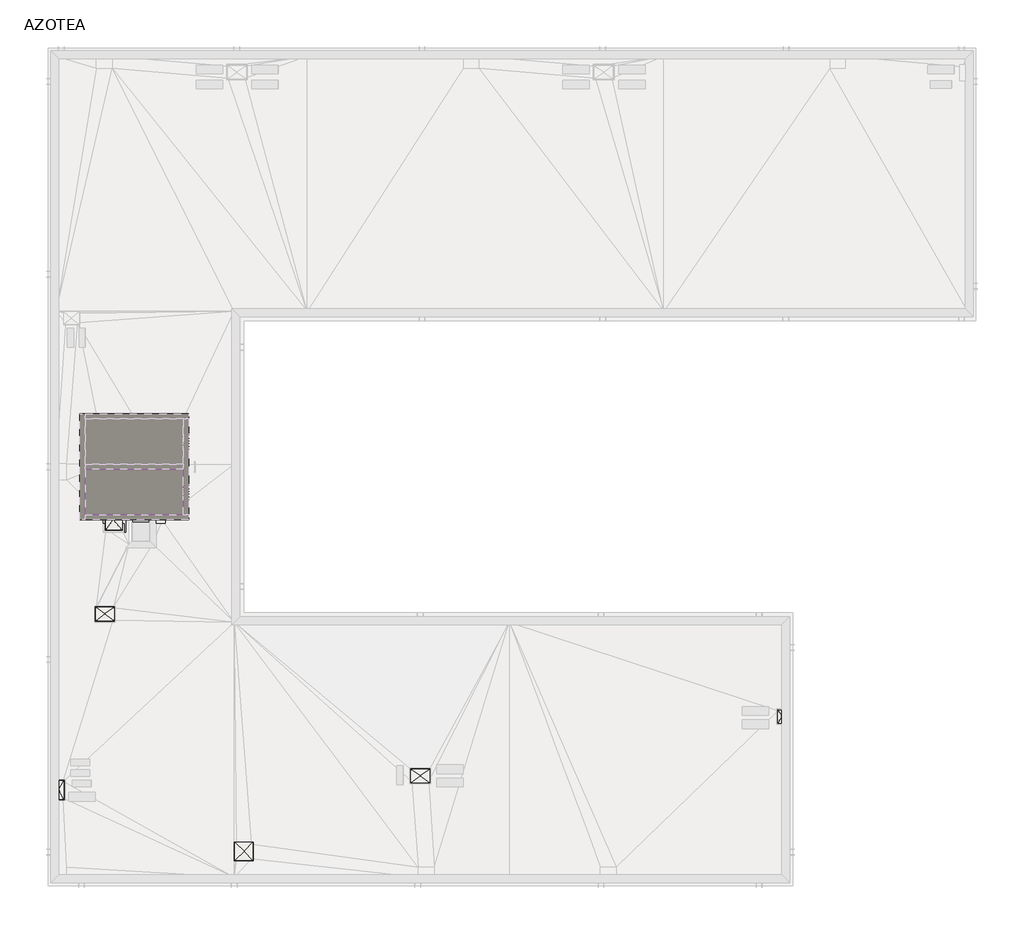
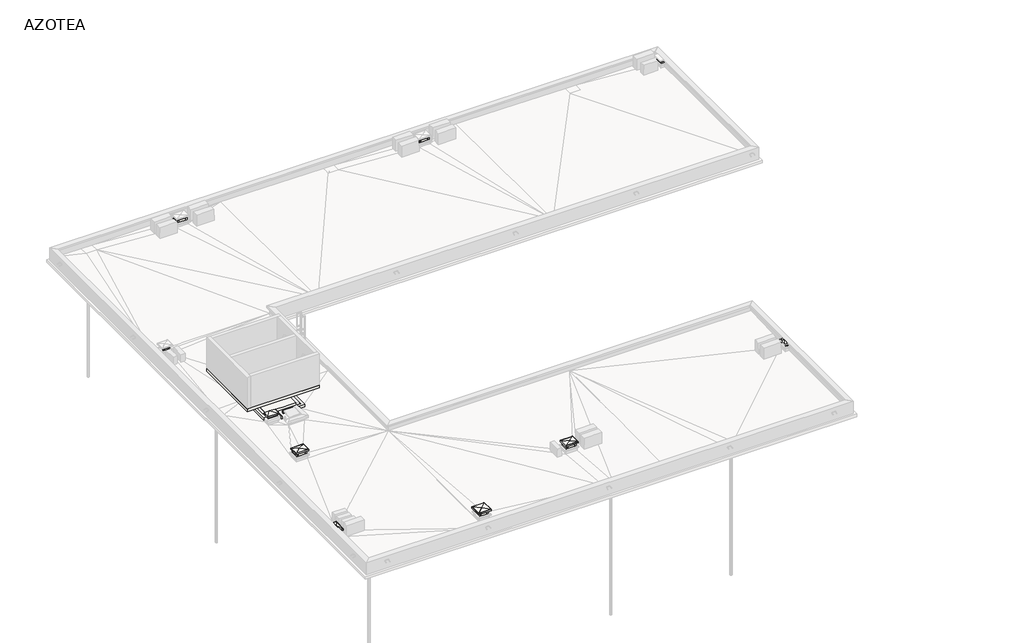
# One storey, part 1 of 6: 36 walls, 10 slabs, 5 proxies.
"""IFC4 building model written with IfcOpenShell, lengths in millimetres."""

from ifc_helpers import new_model, si_unit, frame, origin, place, context, project, spatial, polyline, outline, extrude, faceted_brep, element, save

model = new_model("IFC4")

# Units and contexts
model_context = context("Model", 3, world=origin())
ifc_project = project(units=[si_unit("LENGTHUNIT", "METRE", prefix="MILLI")], contexts=[model_context])

# Site, building, storey
site = spatial("IfcSite", under=ifc_project)
building = spatial("IfcBuilding", under=site)
storey = spatial("IfcBuildingStorey", under=building, Name="AZOTEA", Elevation=6570.0)

# Proxies
placement = place(None, origin())
element("IfcBuildingElementProxy", 1, Name="Goterón", ObjectType="Goterón", at=placement, inside=storey, context=model_context, shape_type="Brep", body=[
    faceted_brep([(5228.7173694, 13970.2304035, 7340.0), (5238.7173694, 13970.2304035, 7340.0), (5238.7173694, 13970.2304035, 7270.0), (5238.7173694, 13970.2304035, 7260.0), (5228.7173694, 13970.2304035, 7260.0), (5228.7173694, 13580.2304035, 7340.0), (5238.7173694, 13590.2304035, 7340.0), (5238.7173694, 13590.2304035, 7270.0), (5238.7173694, 13590.2304035, 7260.0), (5228.7173694, 13580.2304035, 7260.0), (5878.7173694, 13580.2304035, 7340.0), (5868.7173694, 13590.2304035, 7340.0), (5868.7173694, 13590.2304035, 7270.0), (5868.7173694, 13590.2304035, 7260.0), (5878.7173694, 13580.2304035, 7260.0), (5868.7173694, 13970.2304035, 7340.0), (5878.7173694, 13970.2304035, 7340.0), (5878.7173694, 13970.2304035, 7260.0), (5868.7173694, 13970.2304035, 7260.0), (5868.7173694, 13970.2304035, 7270.0)], [[[0, 1, 2, 3, 4]], [[1, 0, 5, 6]], [[1, 6, 7, 8, 3, 2]], [[4, 3, 8, 9]], [[0, 4, 9, 5]], [[6, 5, 10, 11]], [[6, 11, 12, 13, 8, 7]], [[9, 8, 13, 14]], [[5, 9, 14, 10]], [[15, 16, 17, 18, 19]], [[11, 10, 16, 15]], [[11, 15, 19, 18, 13, 12]], [[14, 13, 18, 17]], [[10, 14, 17, 16]]]),
])
element("IfcBuildingElementProxy", 2, Name="Goterón", ObjectType="Goterón", at=placement, inside=storey, context=model_context, shape_type="Brep", body=[
    faceted_brep([(5568.9089372, 10690.2304035, 7340.0), (5578.9089372, 10700.2304035, 7340.0), (4858.9089372, 10700.2304035, 7340.0), (4868.9089372, 10690.2304035, 7340.0), (4868.9089372, 10690.2304035, 7270.0), (4868.9089372, 10690.2304035, 7260.0), (5568.9089372, 10690.2304035, 7260.0), (5568.9089372, 10690.2304035, 7270.0), (5578.9089372, 10700.2304035, 7260.0), (4858.9089372, 10700.2304035, 7260.0), (4858.9089372, 10160.2304035, 7340.0), (4868.9089372, 10170.2304035, 7340.0), (4868.9089372, 10170.2304035, 7270.0), (4868.9089372, 10170.2304035, 7260.0), (4858.9089372, 10160.2304035, 7260.0), (5578.9089372, 10160.2304035, 7340.0), (5568.9089372, 10170.2304035, 7340.0), (5568.9089372, 10170.2304035, 7270.0), (5568.9089372, 10170.2304035, 7260.0), (5578.9089372, 10160.2304035, 7260.0)], [[[0, 1, 2, 3]], [[0, 3, 4, 5, 6, 7]], [[8, 6, 5, 9]], [[1, 8, 9, 2]], [[3, 2, 10, 11]], [[3, 11, 12, 13, 5, 4]], [[9, 5, 13, 14]], [[2, 9, 14, 10]], [[11, 10, 15, 16]], [[11, 16, 17, 18, 13, 12]], [[14, 13, 18, 19]], [[10, 14, 19, 15]], [[1, 0, 16, 15]], [[16, 0, 7, 6, 18, 17]], [[6, 8, 19, 18]], [[8, 1, 15, 19]]]),
])
element("IfcBuildingElementProxy", 3, Name="Goterón", ObjectType="Goterón", at=placement, inside=storey, context=model_context, shape_type="Brep", body=[
    faceted_brep([(3488.7173693, 3451.2570664, 7280.0), (3488.7173693, 3461.2570664, 7280.0), (3488.7173693, 3461.2570664, 7210.0), (3488.7173693, 3461.2570664, 7200.0), (3488.7173693, 3451.2570664, 7200.0), (3688.5673693, 3451.2570664, 7280.0), (3678.5673693, 3461.2570664, 7280.0), (3678.5673693, 3461.2570664, 7210.0), (3678.5673693, 3461.2570664, 7200.0), (3688.5673693, 3451.2570664, 7200.0), (3688.5673693, 4171.2570664, 7280.0), (3678.5673693, 4161.2570664, 7280.0), (3678.5673693, 4161.2570664, 7210.0), (3678.5673693, 4161.2570664, 7200.0), (3688.5673693, 4171.2570664, 7200.0), (3488.7173693, 4161.2570664, 7280.0), (3488.7173693, 4171.2570664, 7280.0), (3488.7173693, 4171.2570664, 7200.0), (3488.7173693, 4161.2570664, 7200.0), (3488.7173693, 4161.2570664, 7210.0)], [[[0, 1, 2, 3, 4]], [[1, 0, 5, 6]], [[1, 6, 7, 8, 3, 2]], [[4, 3, 8, 9]], [[0, 4, 9, 5]], [[6, 5, 10, 11]], [[6, 11, 12, 13, 8, 7]], [[9, 8, 13, 14]], [[5, 9, 14, 10]], [[15, 16, 17, 18, 19]], [[11, 10, 16, 15]], [[11, 15, 19, 18, 13, 12]], [[14, 13, 18, 17]], [[10, 14, 17, 16]]]),
])
element("IfcBuildingElementProxy", 4, Name="Goterón", ObjectType="Goterón", at=placement, inside=storey, context=model_context, shape_type="Brep", body=[
    faceted_brep([(17437.1766736, 4590.2304035, 7340.0), (17447.1766736, 4600.2304035, 7340.0), (16727.1766736, 4600.2304035, 7340.0), (16737.1766736, 4590.2304035, 7340.0), (16737.1766736, 4590.2304035, 7270.0), (16737.1766736, 4590.2304035, 7260.0), (17437.1766736, 4590.2304035, 7260.0), (17437.1766736, 4590.2304035, 7270.0), (17447.1766736, 4600.2304035, 7260.0), (16727.1766736, 4600.2304035, 7260.0), (16727.1766736, 4080.2304035, 7340.0), (16737.1766736, 4090.2304035, 7340.0), (16737.1766736, 4090.2304035, 7270.0), (16737.1766736, 4090.2304035, 7260.0), (16727.1766736, 4080.2304035, 7260.0), (17447.1766736, 4080.2304035, 7340.0), (17437.1766736, 4090.2304035, 7340.0), (17437.1766736, 4090.2304035, 7270.0), (17437.1766736, 4090.2304035, 7260.0), (17447.1766736, 4080.2304035, 7260.0)], [[[0, 1, 2, 3]], [[0, 3, 4, 5, 6, 7]], [[8, 6, 5, 9]], [[1, 8, 9, 2]], [[3, 2, 10, 11]], [[3, 11, 12, 13, 5, 4]], [[9, 5, 13, 14]], [[2, 9, 14, 10]], [[11, 10, 15, 16]], [[11, 16, 17, 18, 13, 12]], [[14, 13, 18, 19]], [[10, 14, 19, 15]], [[1, 0, 16, 15]], [[16, 0, 7, 6, 18, 17]], [[6, 8, 19, 18]], [[8, 1, 15, 19]]]),
])
element("IfcBuildingElementProxy", 5, Name="Goterón", ObjectType="Goterón", at=placement, inside=storey, context=model_context, shape_type="Brep", body=[
    faceted_brep([(10791.2173694, 1835.2304035, 7340.0), (10801.2173694, 1845.2304035, 7340.0), (10088.7173694, 1845.2304035, 7340.0), (10098.7173694, 1835.2304035, 7340.0), (10098.7173694, 1835.2304035, 7270.0), (10098.7173694, 1835.2304035, 7260.0), (10791.2173694, 1835.2304035, 7260.0), (10791.2173694, 1835.2304035, 7270.0), (10801.2173694, 1845.2304035, 7260.0), (10088.7173694, 1845.2304035, 7260.0), (10088.7173694, 1155.2304035, 7340.0), (10098.7173694, 1165.2304035, 7340.0), (10098.7173694, 1165.2304035, 7270.0), (10098.7173694, 1165.2304035, 7260.0), (10088.7173694, 1155.2304035, 7260.0), (10801.2173694, 1155.2304035, 7340.0), (10791.2173694, 1165.2304035, 7340.0), (10791.2173694, 1165.2304035, 7270.0), (10791.2173694, 1165.2304035, 7260.0), (10801.2173694, 1155.2304035, 7260.0)], [[[0, 1, 2, 3]], [[0, 3, 4, 5, 6, 7]], [[8, 6, 5, 9]], [[1, 8, 9, 2]], [[3, 2, 10, 11]], [[3, 11, 12, 13, 5, 4]], [[9, 5, 13, 14]], [[2, 9, 14, 10]], [[11, 10, 15, 16]], [[11, 16, 17, 18, 13, 12]], [[14, 13, 18, 19]], [[10, 14, 19, 15]], [[1, 0, 16, 15]], [[16, 0, 7, 6, 18, 17]], [[6, 8, 19, 18]], [[8, 1, 15, 19]]]),
])

# Slabs
element("IfcSlab", 6, ObjectType="Aleta H.A. 15cm", at=placement, inside=storey, context=model_context, shape_type="Brep", body=[
    faceted_brep([(7368.7173694, 13970.2304035, 7010.0), (7368.7173694, 16070.2304035, 7010.0), (5268.7173693, 16070.2304035, 7010.0), (5268.7173693, 13970.2304035, 7010.0), (5388.7173694, 13970.2304035, 7010.0), (5388.7173694, 13850.2304035, 7010.0), (5268.7173694, 13850.2304035, 7010.0), (5178.7173694, 13850.2304035, 7010.0), (5158.7173694, 13850.2304035, 7010.0), (5148.7173693, 13850.2304035, 7010.0), (5148.7173693, 16190.2304035, 7010.0), (7488.7173694, 16190.2304035, 7010.0), (7488.7173694, 13850.2304035, 7010.0), (7144.4126343, 13850.2304035, 7010.0), (7144.4126343, 13970.2304035, 7010.0), (7368.7173694, 13970.2304035, 7160.0), (7144.4126343, 13970.2304035, 7160.0), (7144.4126343, 13850.2304035, 7160.0), (7488.7173694, 13850.2304035, 7160.0), (7488.7173694, 16190.2304035, 7160.0), (5148.7173693, 16190.2304035, 7160.0), (5148.7173693, 13850.2304035, 7160.0), (5388.7173694, 13850.2304035, 7160.0), (5388.7173694, 13970.2304035, 7160.0), (5268.7173693, 13970.2304035, 7160.0), (5268.7173693, 14170.2304035, 7160.0), (5268.7173693, 15870.2304035, 7160.0), (5268.7173693, 16070.2304035, 7160.0), (7368.7173694, 16070.2304035, 7160.0), (7368.7173694, 15870.2304035, 7160.0), (7368.7173694, 14170.2304035, 7160.0)], [[[0, 1, 2, 3, 4, 5, 6, 7, 8, 9, 10, 11, 12, 13, 14]], [[15, 16, 17, 18, 19, 20, 21, 22, 23, 24, 25, 26, 27, 28, 29, 30]], [[1, 0, 15, 30, 29, 28]], [[2, 1, 28, 27]], [[3, 2, 27, 26, 25, 24]], [[4, 3, 24, 23]], [[10, 9, 21, 20]], [[11, 10, 20, 19]], [[12, 11, 19, 18]], [[13, 12, 18, 17]], [[14, 13, 17, 16]], [[0, 14, 16, 15]], [[5, 4, 23, 22]], [[9, 8, 7, 6, 5, 22, 21]]]),
    faceted_brep([(6274.4126343, 13850.2304035, 7010.0), (6274.4126343, 13970.2304035, 7010.0), (6874.4126343, 13970.2304035, 7010.0), (6874.4126343, 13850.2304035, 7010.0), (6274.4126343, 13850.2304035, 7160.0), (6874.4126343, 13850.2304035, 7160.0), (6874.4126343, 13970.2304035, 7160.0), (6274.4126343, 13970.2304035, 7160.0)], [[[0, 1, 2, 3]], [[4, 5, 6, 7]], [[1, 0, 4, 7]], [[2, 1, 7, 6]], [[3, 2, 6, 5]], [[0, 3, 5, 4]]]),
    faceted_brep([(6004.4126343, 13850.2304035, 7010.0), (6004.4126343, 13500.2304035, 7010.0), (5958.7173694, 13500.2304035, 7010.0), (5958.7173694, 13850.2304035, 7010.0), (5948.7173694, 13850.2304035, 7010.0), (5928.7173694, 13850.2304035, 7010.0), (5838.7173694, 13850.2304035, 7010.0), (5718.7173694, 13850.2304035, 7010.0), (5718.7173694, 13970.2304035, 7010.0), (5838.7173694, 13970.2304035, 7010.0), (6004.4126343, 13970.2304035, 7010.0), (6004.4126343, 13850.2304035, 7160.0), (6004.4126343, 13970.2304035, 7160.0), (5718.7173694, 13970.2304035, 7160.0), (5718.7173694, 13850.2304035, 7160.0), (5958.7173694, 13850.2304035, 7160.0), (5958.7173694, 13500.2304035, 7160.0), (6004.4126343, 13500.2304035, 7160.0)], [[[0, 1, 2, 3, 4, 5, 6, 7, 8, 9, 10]], [[11, 12, 13, 14, 15, 16, 17]], [[0, 10, 12, 11]], [[7, 6, 5, 4, 3, 15, 14]], [[8, 7, 14, 13]], [[10, 9, 8, 13, 12]], [[1, 0, 11, 17]], [[2, 1, 17, 16]], [[3, 2, 16, 15]]]),
])
element("IfcSlab", 7, ObjectType="CUBIERTA SALIDAS AZOTEA", at=placement, inside=storey, context=model_context, shape_type="Brep", body=[
    faceted_brep([(5868.7173694, 13970.2304035, 7270.0), (5868.7173694, 13590.2304035, 7270.0), (5238.7173694, 13590.2304035, 7270.0), (5238.7173694, 13970.2304035, 7270.0), (5868.7173694, 13970.2304035, 7340.0), (5868.7173694, 13590.2304035, 7340.0), (5238.7173694, 13590.2304035, 7340.0), (5238.7173694, 13970.2304035, 7340.0), (5543.0104365, 13970.2304035, 7370.0)], [[[0, 1, 2, 3]], [[1, 0, 4, 5]], [[2, 1, 5, 6]], [[3, 2, 6, 7]], [[0, 3, 7, 8, 4]], [[7, 6, 8]], [[6, 5, 8]], [[5, 4, 8]]]),
])
element("IfcSlab", 8, ObjectType="CUBIERTA SALIDAS AZOTEA", at=placement, inside=storey, context=model_context, shape_type="Brep", body=[
    faceted_brep([(5568.9089372, 10690.2304035, 7270.0), (5568.9089372, 10170.2304035, 7270.0), (4868.9089372, 10170.2304035, 7270.0), (4868.9089372, 10690.2304035, 7270.0), (5568.9089372, 10690.2304035, 7340.0), (5568.9089372, 10170.2304035, 7340.0), (4868.9089372, 10170.2304035, 7340.0), (4868.9089372, 10690.2304035, 7340.0), (5220.02017, 10440.2304035, 7351.1134235)], [[[0, 1, 2, 3]], [[1, 0, 4, 5]], [[2, 1, 5, 6]], [[3, 2, 6, 7]], [[0, 3, 7, 4]], [[7, 6, 8]], [[5, 4, 8]], [[6, 5, 8]], [[7, 8, 4]]]),
])
element("IfcSlab", 9, ObjectType="CUBIERTA SALIDAS AZOTEA", at=placement, inside=storey, context=model_context, shape_type="Brep", body=[
    faceted_brep([(3488.7173693, 3461.2570664, 7210.0), (3488.7173693, 4161.2570664, 7210.0), (3678.5673693, 4161.2570664, 7210.0), (3678.5673693, 3461.2570664, 7210.0), (3488.7173693, 3461.2570664, 7280.0), (3488.7173693, 3811.2570664, 7300.0), (3488.7173693, 4161.2570664, 7280.0), (3678.5673693, 4161.2570664, 7280.0), (3678.5673693, 3461.2570664, 7280.0)], [[[0, 1, 2, 3]], [[1, 0, 4, 5, 6]], [[2, 1, 6, 7]], [[3, 2, 7, 8]], [[0, 3, 8, 4]], [[8, 7, 5]], [[7, 6, 5]], [[8, 5, 4]]]),
])
element("IfcSlab", 10, ObjectType="CUBIERTA SALIDAS AZOTEA", at=placement, inside=storey, context=model_context, shape_type="Brep", body=[
    faceted_brep([(17437.1766736, 4590.2304035, 7270.0), (17437.1766736, 4090.2304035, 7270.0), (16737.1766736, 4090.2304035, 7270.0), (16737.1766736, 4590.2304035, 7270.0), (17437.1766736, 4590.2304035, 7340.0), (17437.1766736, 4090.2304035, 7340.0), (16737.1766736, 4090.2304035, 7340.0), (16737.1766736, 4590.2304035, 7340.0), (17088.2879064, 4340.2304035, 7351.1134235)], [[[0, 1, 2, 3]], [[1, 0, 4, 5]], [[2, 1, 5, 6]], [[3, 2, 6, 7]], [[0, 3, 7, 4]], [[7, 6, 8]], [[5, 4, 8]], [[6, 5, 8]], [[7, 8, 4]]]),
])
element("IfcSlab", 11, ObjectType="CUBIERTA SALIDAS AZOTEA", at=placement, inside=storey, context=model_context, shape_type="Brep", body=[
    faceted_brep([(30688.7173693, 6820.2304035, 7210.0), (30688.7173693, 6320.2304035, 7210.0), (30536.2173693, 6320.2304035, 7210.0), (30536.2173693, 6820.2304035, 7210.0), (30688.7173693, 6820.2304035, 7280.0), (30688.7173693, 6590.2304035, 7300.0), (30688.7173693, 6320.2304035, 7280.0), (30536.2173693, 6320.2304035, 7280.0), (30536.2173693, 6820.2304035, 7280.0)], [[[0, 1, 2, 3]], [[1, 0, 4, 5, 6]], [[2, 1, 6, 7]], [[3, 2, 7, 8]], [[0, 3, 8, 4]], [[8, 7, 5]], [[7, 6, 5]], [[8, 5, 4]]]),
])
element("IfcSlab", 12, ObjectType="Alisado AyP con hidrófugo", at=placement, inside=storey, context=model_context, shape_type="Brep", body=[
    faceted_brep([(8174.4126343, 15870.2304035, 7910.0), (8174.4126343, 14170.2304035, 7910.0), (4474.4126343, 14170.2304035, 7910.0), (4474.4126343, 15870.2304035, 7910.0), (8174.4126343, 15870.2304035, 8060.0), (8174.4126343, 14170.2304035, 8060.0), (4474.4126343, 14170.2304035, 8060.0), (4474.4126343, 15870.2304035, 8060.0), (6324.4126343, 15020.2304035, 7960.0)], [[[0, 1, 2, 3]], [[1, 0, 4, 5]], [[2, 1, 5, 6]], [[3, 2, 6, 7]], [[0, 3, 7, 4]], [[7, 6, 8]], [[5, 4, 8]], [[6, 5, 8]], [[7, 8, 4]]]),
])
element("IfcSlab", 13, ObjectType="CUBIERTA SALIDAS AZOTEA", at=placement, inside=storey, context=model_context, shape_type="Brep", body=[
    faceted_brep([(10791.2173694, 1835.2304035, 7270.0), (10791.2173694, 1165.2304035, 7270.0), (10098.7173694, 1165.2304035, 7270.0), (10098.7173694, 1835.2304035, 7270.0), (10791.2173694, 1835.2304035, 7340.0), (10791.2173694, 1165.2304035, 7340.0), (10098.7173694, 1165.2304035, 7340.0), (10098.7173694, 1835.2304035, 7340.0), (10458.1377646, 1501.4485035, 7351.1134235)], [[[0, 1, 2, 3]], [[1, 0, 4, 5]], [[2, 1, 5, 6]], [[3, 2, 6, 7]], [[0, 3, 7, 4]], [[7, 6, 8]], [[5, 4, 8]], [[6, 5, 8]], [[7, 8, 4]]]),
])
element("IfcSlab", 14, ObjectType="LOSA-INT-HA-15cm-PET", at=placement, inside=storey, context=model_context, shape_type="SweptSolid", body=[
    extrude(outline(polyline([(7168.7173693, 15870.2304035), (7168.7173693, 14170.2304035), (5418.7173693, 14170.2304035), (5418.7173693, 15870.2304035), (7168.7173693, 15870.2304035)])), frame((0.0, 0.0, 7010.0), z_axis=(0.0, 0.0, 1.0), x_axis=(1.0, 0.0, 0.0)), (0.0, 0.0, 1.0), 150.0),
])
element("IfcSlab", 15, ObjectType="LOSA-INT-HA-15cm-PET", at=placement, inside=storey, context=model_context, shape_type="Brep", body=[
    faceted_brep([(8374.4126343, 17970.2304035, 7760.0), (8374.4126343, 13970.2304035, 7760.0), (7368.7173694, 13970.2304035, 7760.0), (5268.7173694, 13970.2304035, 7760.0), (4274.4126343, 13970.2304035, 7760.0), (4274.4126343, 17970.2304035, 7760.0), (8374.4126343, 17970.2304035, 7910.0), (4474.4126343, 17970.2304035, 7910.0), (4274.4126343, 17970.2304035, 7910.0), (4274.4126343, 13970.2304035, 7910.0), (4474.4126343, 13970.2304035, 7910.0), (8374.4126343, 13970.2304035, 7910.0), (8374.4126343, 14170.2304035, 7910.0), (8374.4126343, 17770.2304035, 7910.0)], [[[0, 1, 2, 3, 4, 5]], [[6, 7, 8, 9, 10, 11, 12, 13]], [[1, 0, 6, 13, 12, 11]], [[4, 3, 2, 1, 11, 10, 9]], [[5, 4, 9, 8]], [[0, 5, 8, 7, 6]]]),
])

# Walls
element("IfcWall", 16, ObjectType="MURO-Salida azotea-PET", at=placement, inside=storey, context=model_context, shape_type="SweptSolid", body=[
    extrude(outline(polyline([(10388.7173694, 30920.2304035), (9988.7173694, 30920.2304035), (9988.7173694, 31010.2304035), (10388.7173694, 31010.2304035), (10388.7173694, 30920.2304035)])), frame((0.0, 0.0, 7070.0), z_axis=(0.0, 0.0, 1.0), x_axis=(1.0, 0.0, 0.0)), (0.0, 0.0, 1.0), 200.0),
])
element("IfcWall", 17, ObjectType="MURO-Salida azotea-PET", at=placement, inside=storey, context=model_context, shape_type="Brep", body=[
    faceted_brep([(10388.7173694, 31010.2304035, 7070.0), (10388.7173694, 30920.2304035, 7070.0), (10388.7173694, 30720.2304035, 7070.0), (10388.7173694, 30630.2304035, 7070.0), (10388.7173694, 30630.2304035, 7270.0), (10388.7173694, 30720.2304035, 7270.0), (10388.7173694, 30920.2304035, 7270.0), (10388.7173694, 31010.2304035, 7270.0), (10478.7173694, 31010.2304035, 7070.0), (10478.7173694, 31010.2304035, 7270.0), (10478.7173694, 30630.2304035, 7270.0), (10478.7173694, 30630.2304035, 7070.0)], [[[0, 1, 2, 3, 4, 5, 6, 7]], [[8, 9, 10, 11]], [[3, 2, 1, 0, 8, 11]], [[7, 6, 5, 4, 10, 9]], [[0, 7, 9, 8]], [[4, 3, 11, 10]]]),
])
element("IfcWall", 18, ObjectType="MURO-Salida azotea-PET", at=placement, inside=storey, context=model_context, shape_type="SweptSolid", body=[
    extrude(outline(polyline([(9988.7173694, 30720.2304035), (10388.7173694, 30720.2304035), (10388.7173694, 30630.2304035), (9988.7173694, 30630.2304035), (9988.7173694, 30720.2304035)])), frame((0.0, 0.0, 7070.0), z_axis=(0.0, 0.0, 1.0), x_axis=(1.0, 0.0, 0.0)), (0.0, 0.0, 1.0), 200.0),
])
element("IfcWall", 19, ObjectType="MURO-Salida azotea-PET", at=placement, inside=storey, context=model_context, shape_type="Brep", body=[
    faceted_brep([(9988.7173694, 30630.2304035, 7070.0), (9988.7173694, 30720.2304035, 7070.0), (9988.7173694, 30920.2304035, 7070.0), (9988.7173694, 31010.2304035, 7070.0), (9988.7173694, 31010.2304035, 7270.0), (9988.7173694, 30920.2304035, 7270.0), (9988.7173694, 30720.2304035, 7270.0), (9988.7173694, 30630.2304035, 7270.0), (9898.7173694, 30630.2304035, 7070.0), (9898.7173694, 30630.2304035, 7270.0), (9898.7173694, 31010.2304035, 7270.0), (9898.7173694, 31010.2304035, 7070.0)], [[[0, 1, 2, 3, 4, 5, 6, 7]], [[8, 9, 10, 11]], [[3, 2, 1, 0, 8, 11]], [[7, 6, 5, 4, 10, 9]], [[4, 3, 11, 10]], [[0, 7, 9, 8]]]),
])
element("IfcWall", 20, ObjectType="MURO-Salida azotea-PET", at=placement, inside=storey, context=model_context, shape_type="Brep", body=[
    faceted_brep([(5298.7173694, 13970.2304035, 7160.0), (5298.7173694, 13650.2304035, 7160.0), (5298.7173694, 13650.2304035, 7270.0), (5298.7173694, 13970.2304035, 7270.0), (5388.7173694, 13970.2304035, 7160.0), (5388.7173694, 13970.2304035, 7270.0), (5388.7173694, 13740.2304035, 7270.0), (5388.7173694, 13650.2304035, 7270.0), (5388.7173694, 13650.2304035, 7160.0), (5388.7173694, 13740.2304035, 7160.0)], [[[0, 1, 2, 3]], [[4, 5, 6, 7, 8, 9]], [[1, 0, 4, 9, 8]], [[3, 2, 7, 6, 5]], [[0, 3, 5, 4]], [[2, 1, 8, 7]]]),
])
element("IfcWall", 21, ObjectType="MURO-Salida azotea-PET", at=placement, inside=storey, context=model_context, shape_type="SweptSolid", body=[
    extrude(outline(polyline([(5718.7173694, 13650.2304035), (5388.7173694, 13650.2304035), (5388.7173694, 13740.2304035), (5718.7173694, 13740.2304035), (5718.7173694, 13650.2304035)])), frame((0.0, 0.0, 7160.0), z_axis=(0.0, 0.0, 1.0), x_axis=(1.0, 0.0, 0.0)), (0.0, 0.0, 1.0), 110.0),
])
element("IfcWall", 22, ObjectType="MURO-Salida azotea-PET", at=placement, inside=storey, context=model_context, shape_type="Brep", body=[
    faceted_brep([(5808.7173694, 13650.2304035, 7160.0), (5808.7173694, 13970.2304035, 7160.0), (5808.7173694, 13970.2304035, 7270.0), (5808.7173694, 13650.2304035, 7270.0), (5718.7173694, 13650.2304035, 7160.0), (5718.7173694, 13650.2304035, 7270.0), (5718.7173694, 13740.2304035, 7270.0), (5718.7173694, 13970.2304035, 7270.0), (5718.7173694, 13970.2304035, 7160.0), (5718.7173694, 13740.2304035, 7160.0)], [[[0, 1, 2, 3]], [[4, 5, 6, 7, 8, 9]], [[1, 0, 4, 9, 8]], [[2, 1, 8, 7]], [[3, 2, 7, 6, 5]], [[0, 3, 5, 4]]]),
])
element("IfcWall", 23, ObjectType="MURO-Salida azotea-PET", at=placement, inside=storey, context=model_context, shape_type="SweptSolid", body=[
    extrude(outline(polyline([(24188.7173694, 30920.2304035), (23788.7173694, 30920.2304035), (23788.7173694, 31010.2304035), (24188.7173694, 31010.2304035), (24188.7173694, 30920.2304035)])), frame((0.0, 0.0, 7070.0), z_axis=(0.0, 0.0, 1.0), x_axis=(1.0, 0.0, 0.0)), (0.0, 0.0, 1.0), 200.0),
])
element("IfcWall", 24, ObjectType="MURO-Salida azotea-PET", at=placement, inside=storey, context=model_context, shape_type="Brep", body=[
    faceted_brep([(24188.7173694, 31010.2304035, 7070.0), (24188.7173694, 30920.2304035, 7070.0), (24188.7173694, 30720.2304035, 7070.0), (24188.7173694, 30630.2304035, 7070.0), (24188.7173694, 30630.2304035, 7270.0), (24188.7173694, 30720.2304035, 7270.0), (24188.7173694, 30920.2304035, 7270.0), (24188.7173694, 31010.2304035, 7270.0), (24278.7173694, 31010.2304035, 7070.0), (24278.7173694, 31010.2304035, 7270.0), (24278.7173694, 30630.2304035, 7270.0), (24278.7173694, 30630.2304035, 7070.0)], [[[0, 1, 2, 3, 4, 5, 6, 7]], [[8, 9, 10, 11]], [[3, 2, 1, 0, 8, 11]], [[7, 6, 5, 4, 10, 9]], [[0, 7, 9, 8]], [[4, 3, 11, 10]]]),
])
element("IfcWall", 25, ObjectType="MURO-Salida azotea-PET", at=placement, inside=storey, context=model_context, shape_type="SweptSolid", body=[
    extrude(outline(polyline([(23788.7173694, 30720.2304035), (24188.7173694, 30720.2304035), (24188.7173694, 30630.2304035), (23788.7173694, 30630.2304035), (23788.7173694, 30720.2304035)])), frame((0.0, 0.0, 7070.0), z_axis=(0.0, 0.0, 1.0), x_axis=(1.0, 0.0, 0.0)), (0.0, 0.0, 1.0), 200.0),
])
element("IfcWall", 26, ObjectType="MURO-Salida azotea-PET", at=placement, inside=storey, context=model_context, shape_type="Brep", body=[
    faceted_brep([(23788.7173694, 30630.2304035, 7070.0), (23788.7173694, 30720.2304035, 7070.0), (23788.7173694, 30920.2304035, 7070.0), (23788.7173694, 31010.2304035, 7070.0), (23788.7173694, 31010.2304035, 7270.0), (23788.7173694, 30920.2304035, 7270.0), (23788.7173694, 30720.2304035, 7270.0), (23788.7173694, 30630.2304035, 7270.0), (23698.7173694, 30630.2304035, 7070.0), (23698.7173694, 30630.2304035, 7270.0), (23698.7173694, 31010.2304035, 7270.0), (23698.7173694, 31010.2304035, 7070.0)], [[[0, 1, 2, 3, 4, 5, 6, 7]], [[8, 9, 10, 11]], [[3, 2, 1, 0, 8, 11]], [[7, 6, 5, 4, 10, 9]], [[4, 3, 11, 10]], [[0, 7, 9, 8]]]),
])
element("IfcWall", 27, ObjectType="MURO-Salida azotea-PET", at=placement, inside=storey, context=model_context, shape_type="SweptSolid", body=[
    extrude(outline(polyline([(5418.7212045, 10540.2304035), (5018.7212045, 10540.2304035), (5018.7212045, 10630.2304035), (5418.7212045, 10630.2304035), (5418.7212045, 10540.2304035)])), frame((0.0, 0.0, 7070.0), z_axis=(0.0, 0.0, 1.0), x_axis=(1.0, 0.0, 0.0)), (0.0, 0.0, 1.0), 200.0),
])
element("IfcWall", 28, ObjectType="MURO-Salida azotea-PET", at=placement, inside=storey, context=model_context, shape_type="Brep", body=[
    faceted_brep([(5418.7212045, 10630.2304035, 7070.0), (5418.7212045, 10540.2304035, 7070.0), (5418.7212045, 10320.2304035, 7070.0), (5418.7212045, 10230.2304035, 7070.0), (5418.7212045, 10230.2304035, 7270.0), (5418.7212045, 10320.2304035, 7270.0), (5418.7212045, 10540.2304035, 7270.0), (5418.7212045, 10630.2304035, 7270.0), (5508.7212045, 10630.2304035, 7070.0), (5508.7212045, 10630.2304035, 7270.0), (5508.7212045, 10230.2304035, 7270.0), (5508.7212045, 10230.2304035, 7070.0)], [[[0, 1, 2, 3, 4, 5, 6, 7]], [[8, 9, 10, 11]], [[3, 2, 1, 0, 8, 11]], [[7, 6, 5, 4, 10, 9]], [[0, 7, 9, 8]], [[4, 3, 11, 10]]]),
])
element("IfcWall", 29, ObjectType="MURO-Salida azotea-PET", at=placement, inside=storey, context=model_context, shape_type="SweptSolid", body=[
    extrude(outline(polyline([(5018.7212045, 10320.2304035), (5418.7212045, 10320.2304035), (5418.7212045, 10230.2304035), (5018.7212045, 10230.2304035), (5018.7212045, 10320.2304035)])), frame((0.0, 0.0, 7070.0), z_axis=(0.0, 0.0, 1.0), x_axis=(1.0, 0.0, 0.0)), (0.0, 0.0, 1.0), 200.0),
])
element("IfcWall", 30, ObjectType="MURO-Salida azotea-PET", at=placement, inside=storey, context=model_context, shape_type="Brep", body=[
    faceted_brep([(5018.7212045, 10230.2304035, 7070.0), (5018.7212045, 10320.2304035, 7070.0), (5018.7212045, 10540.2304035, 7070.0), (5018.7212045, 10630.2304035, 7070.0), (5018.7212045, 10630.2304035, 7270.0), (5018.7212045, 10540.2304035, 7270.0), (5018.7212045, 10320.2304035, 7270.0), (5018.7212045, 10230.2304035, 7270.0), (4928.7212045, 10230.2304035, 7070.0), (4928.7212045, 10230.2304035, 7270.0), (4928.7212045, 10630.2304035, 7270.0), (4928.7212045, 10630.2304035, 7070.0)], [[[0, 1, 2, 3, 4, 5, 6, 7]], [[8, 9, 10, 11]], [[3, 2, 1, 0, 8, 11]], [[7, 6, 5, 4, 10, 9]], [[4, 3, 11, 10]], [[0, 7, 9, 8]]]),
])
element("IfcWall", 31, ObjectType="MURO-Salida azotea-PET", at=placement, inside=storey, context=model_context, shape_type="SweptSolid", body=[
    extrude(outline(polyline([(3388.5673693, 3611.2570664), (3538.7173693, 3611.2570664), (3538.7173693, 3521.2570664), (3388.5673693, 3521.2570664), (3388.5673693, 3611.2570664)])), frame((0.0, 0.0, 7070.0), z_axis=(0.0, 0.0, 1.0), x_axis=(1.0, 0.0, 0.0)), (0.0, 0.0, 1.0), 140.0),
])
element("IfcWall", 32, ObjectType="MURO-Salida azotea-PET", at=placement, inside=storey, context=model_context, shape_type="SweptSolid", body=[
    extrude(outline(polyline([(3538.7173693, 4011.2570664), (3388.5673693, 4011.2570664), (3388.5673693, 4101.2570664), (3538.7173693, 4101.2570664), (3538.7173693, 4011.2570664)])), frame((0.0, 0.0, 7070.0), z_axis=(0.0, 0.0, 1.0), x_axis=(1.0, 0.0, 0.0)), (0.0, 0.0, 1.0), 140.0),
])
element("IfcWall", 33, ObjectType="MURO-Salida azotea-PET", at=placement, inside=storey, context=model_context, shape_type="Brep", body=[
    faceted_brep([(3538.7173693, 4101.2570664, 7070.0), (3538.7173693, 4011.2570664, 7070.0), (3538.7173693, 3611.2570664, 7070.0), (3538.7173693, 3521.2570664, 7070.0), (3538.7173693, 3521.2570664, 7210.0), (3538.7173693, 3611.2570664, 7210.0), (3538.7173693, 4011.2570664, 7210.0), (3538.7173693, 4101.2570664, 7210.0), (3628.7173693, 4101.2570664, 7070.0), (3628.7173693, 4101.2570664, 7210.0), (3628.7173693, 3521.2570664, 7210.0), (3628.7173693, 3521.2570664, 7070.0)], [[[0, 1, 2, 3, 4, 5, 6, 7]], [[8, 9, 10, 11]], [[3, 2, 1, 0, 8, 11]], [[7, 6, 5, 4, 10, 9]], [[4, 3, 11, 10]], [[0, 7, 9, 8]]]),
])
element("IfcWall", 34, ObjectType="MURO-Salida azotea-PET", at=placement, inside=storey, context=model_context, shape_type="SweptSolid", body=[
    extrude(outline(polyline([(17287.1766736, 4440.2304035), (16887.1766736, 4440.2304035), (16887.1766736, 4530.2304035), (17287.1766736, 4530.2304035), (17287.1766736, 4440.2304035)])), frame((0.0, 0.0, 7070.0), z_axis=(0.0, 0.0, 1.0), x_axis=(1.0, 0.0, 0.0)), (0.0, 0.0, 1.0), 200.0),
])
element("IfcWall", 35, ObjectType="MURO-Salida azotea-PET", at=placement, inside=storey, context=model_context, shape_type="Brep", body=[
    faceted_brep([(17287.1766736, 4530.2304035, 7070.0), (17287.1766736, 4440.2304035, 7070.0), (17287.1766736, 4240.2304035, 7070.0), (17287.1766736, 4150.2304035, 7070.0), (17287.1766736, 4150.2304035, 7270.0), (17287.1766736, 4240.2304035, 7270.0), (17287.1766736, 4440.2304035, 7270.0), (17287.1766736, 4530.2304035, 7270.0), (17377.1766736, 4530.2304035, 7070.0), (17377.1766736, 4530.2304035, 7270.0), (17377.1766736, 4150.2304035, 7270.0), (17377.1766736, 4150.2304035, 7070.0)], [[[0, 1, 2, 3, 4, 5, 6, 7]], [[8, 9, 10, 11]], [[3, 2, 1, 0, 8, 11]], [[7, 6, 5, 4, 10, 9]], [[0, 7, 9, 8]], [[4, 3, 11, 10]]]),
])
element("IfcWall", 36, ObjectType="MURO-Salida azotea-PET", at=placement, inside=storey, context=model_context, shape_type="SweptSolid", body=[
    extrude(outline(polyline([(16887.1766736, 4240.2304035), (17287.1766736, 4240.2304035), (17287.1766736, 4150.2304035), (16887.1766736, 4150.2304035), (16887.1766736, 4240.2304035)])), frame((0.0, 0.0, 7070.0), z_axis=(0.0, 0.0, 1.0), x_axis=(1.0, 0.0, 0.0)), (0.0, 0.0, 1.0), 200.0),
])
element("IfcWall", 37, ObjectType="MURO-Salida azotea-PET", at=placement, inside=storey, context=model_context, shape_type="Brep", body=[
    faceted_brep([(16887.1766736, 4150.2304035, 7070.0), (16887.1766736, 4240.2304035, 7070.0), (16887.1766736, 4440.2304035, 7070.0), (16887.1766736, 4530.2304035, 7070.0), (16887.1766736, 4530.2304035, 7270.0), (16887.1766736, 4440.2304035, 7270.0), (16887.1766736, 4240.2304035, 7270.0), (16887.1766736, 4150.2304035, 7270.0), (16797.1766736, 4150.2304035, 7070.0), (16797.1766736, 4150.2304035, 7270.0), (16797.1766736, 4530.2304035, 7270.0), (16797.1766736, 4530.2304035, 7070.0)], [[[0, 1, 2, 3, 4, 5, 6, 7]], [[8, 9, 10, 11]], [[3, 2, 1, 0, 8, 11]], [[7, 6, 5, 4, 10, 9]], [[4, 3, 11, 10]], [[0, 7, 9, 8]]]),
])
element("IfcWall", 38, ObjectType="MURO-Salida azotea-PET", at=placement, inside=storey, context=model_context, shape_type="SweptSolid", body=[
    extrude(outline(polyline([(30788.7173693, 6670.2304035), (30686.2173693, 6670.2304035), (30686.2173693, 6760.2304035), (30788.7173693, 6760.2304035), (30788.7173693, 6670.2304035)])), frame((0.0, 0.0, 7070.0), z_axis=(0.0, 0.0, 1.0), x_axis=(1.0, 0.0, 0.0)), (0.0, 0.0, 1.0), 140.0),
])
element("IfcWall", 39, ObjectType="MURO-Salida azotea-PET", at=placement, inside=storey, context=model_context, shape_type="SweptSolid", body=[
    extrude(outline(polyline([(30686.2173693, 6470.2304035), (30788.7173693, 6470.2304035), (30788.7173693, 6380.2304035), (30686.2173693, 6380.2304035), (30686.2173693, 6470.2304035)])), frame((0.0, 0.0, 7070.0), z_axis=(0.0, 0.0, 1.0), x_axis=(1.0, 0.0, 0.0)), (0.0, 0.0, 1.0), 140.0),
])
element("IfcWall", 40, ObjectType="MURO-Salida azotea-PET", at=placement, inside=storey, context=model_context, shape_type="Brep", body=[
    faceted_brep([(30686.2173693, 6380.2304035, 7070.0), (30686.2173693, 6470.2304035, 7070.0), (30686.2173693, 6670.2304035, 7070.0), (30686.2173693, 6760.2304035, 7070.0), (30686.2173693, 6760.2304035, 7210.0), (30686.2173693, 6670.2304035, 7210.0), (30686.2173693, 6470.2304035, 7210.0), (30686.2173693, 6380.2304035, 7210.0), (30596.2173693, 6380.2304035, 7070.0), (30596.2173693, 6380.2304035, 7210.0), (30596.2173693, 6760.2304035, 7210.0), (30596.2173693, 6760.2304035, 7070.0)], [[[0, 1, 2, 3, 4, 5, 6, 7]], [[8, 9, 10, 11]], [[3, 2, 1, 0, 8, 11]], [[7, 6, 5, 4, 10, 9]], [[4, 3, 11, 10]], [[0, 7, 9, 8]]]),
])
element("IfcWall", 41, ObjectType="MURO-Salida azotea-PET", at=placement, inside=storey, context=model_context, shape_type="SweptSolid", body=[
    extrude(outline(polyline([(37688.7173693, 30950.2304035), (37541.0173693, 30950.2304035), (37541.0173693, 31040.2304035), (37688.7173693, 31040.2304035), (37688.7173693, 30950.2304035)])), frame((0.0, 0.0, 7070.0), z_axis=(0.0, 0.0, 1.0), x_axis=(1.0, 0.0, 0.0)), (0.0, 0.0, 1.0), 140.0),
])
element("IfcWall", 42, ObjectType="MURO-Salida azotea-PET", at=placement, inside=storey, context=model_context, shape_type="SweptSolid", body=[
    extrude(outline(polyline([(37541.0173693, 30650.2304035), (37688.7173693, 30650.2304035), (37688.7173693, 30560.2304035), (37541.0173693, 30560.2304035), (37541.0173693, 30650.2304035)])), frame((0.0, 0.0, 7070.0), z_axis=(0.0, 0.0, 1.0), x_axis=(1.0, 0.0, 0.0)), (0.0, 0.0, 1.0), 140.0),
])
element("IfcWall", 43, ObjectType="MURO-Salida azotea-PET", at=placement, inside=storey, context=model_context, shape_type="Brep", body=[
    faceted_brep([(37541.0173693, 30560.2304035, 7070.0), (37541.0173693, 30650.2304035, 7070.0), (37541.0173693, 30950.2304035, 7070.0), (37541.0173693, 31040.2304035, 7070.0), (37541.0173693, 31040.2304035, 7210.0), (37541.0173693, 30950.2304035, 7210.0), (37541.0173693, 30650.2304035, 7210.0), (37541.0173693, 30560.2304035, 7210.0), (37451.0173693, 30560.2304035, 7070.0), (37451.0173693, 30560.2304035, 7210.0), (37451.0173693, 31040.2304035, 7210.0), (37451.0173693, 31040.2304035, 7070.0)], [[[0, 1, 2, 3, 4, 5, 6, 7]], [[8, 9, 10, 11]], [[3, 2, 1, 0, 8, 11]], [[7, 6, 5, 4, 10, 9]], [[4, 3, 11, 10]], [[0, 7, 9, 8]]]),
])
element("IfcWall", 44, ObjectType="MURO-Salida azotea-PET", at=placement, inside=storey, context=model_context, shape_type="SweptSolid", body=[
    extrude(outline(polyline([(4068.7173693, 21620.2304035), (3868.7173693, 21620.2304035), (3868.7173693, 21710.2304035), (4068.7173693, 21710.2304035), (4068.7173693, 21620.2304035)])), frame((0.0, 0.0, 7070.0), z_axis=(0.0, 0.0, 1.0), x_axis=(1.0, 0.0, 0.0)), (0.0, 0.0, 1.0), 200.0),
])
element("IfcWall", 45, ObjectType="MURO-Salida azotea-PET", at=placement, inside=storey, context=model_context, shape_type="Brep", body=[
    faceted_brep([(4068.7173693, 21710.2304035, 7070.0), (4068.7173693, 21620.2304035, 7070.0), (4068.7173693, 21520.2304035, 7070.0), (4068.7173693, 21430.2304035, 7070.0), (4068.7173693, 21430.2304035, 7270.0), (4068.7173693, 21520.2304035, 7270.0), (4068.7173693, 21620.2304035, 7270.0), (4068.7173693, 21710.2304035, 7270.0), (4158.7173693, 21710.2304035, 7070.0), (4158.7173693, 21710.2304035, 7270.0), (4158.7173693, 21430.2304035, 7270.0), (4158.7173693, 21430.2304035, 7070.0)], [[[0, 1, 2, 3, 4, 5, 6, 7]], [[8, 9, 10, 11]], [[3, 2, 1, 0, 8, 11]], [[7, 6, 5, 4, 10, 9]], [[0, 7, 9, 8]], [[4, 3, 11, 10]]]),
])
element("IfcWall", 46, ObjectType="MURO-Salida azotea-PET", at=placement, inside=storey, context=model_context, shape_type="SweptSolid", body=[
    extrude(outline(polyline([(3868.7173693, 21520.2304035), (4068.7173693, 21520.2304035), (4068.7173693, 21430.2304035), (3868.7173693, 21430.2304035), (3868.7173693, 21520.2304035)])), frame((0.0, 0.0, 7070.0), z_axis=(0.0, 0.0, 1.0), x_axis=(1.0, 0.0, 0.0)), (0.0, 0.0, 1.0), 200.0),
])
element("IfcWall", 47, ObjectType="MURO-Salida azotea-PET", at=placement, inside=storey, context=model_context, shape_type="Brep", body=[
    faceted_brep([(3868.7173693, 21430.2304035, 7070.0), (3868.7173693, 21520.2304035, 7070.0), (3868.7173693, 21620.2304035, 7070.0), (3868.7173693, 21710.2304035, 7070.0), (3868.7173693, 21710.2304035, 7270.0), (3868.7173693, 21620.2304035, 7270.0), (3868.7173693, 21520.2304035, 7270.0), (3868.7173693, 21430.2304035, 7270.0), (3778.7173693, 21430.2304035, 7070.0), (3778.7173693, 21430.2304035, 7270.0), (3778.7173693, 21710.2304035, 7270.0), (3778.7173693, 21710.2304035, 7070.0)], [[[0, 1, 2, 3, 4, 5, 6, 7]], [[8, 9, 10, 11]], [[3, 2, 1, 0, 8, 11]], [[7, 6, 5, 4, 10, 9]], [[4, 3, 11, 10]], [[0, 7, 9, 8]]]),
])
element("IfcWall", 48, ObjectType="MURO-Salida azotea-PET", at=placement, inside=storey, context=model_context, shape_type="SweptSolid", body=[
    extrude(outline(polyline([(10601.2173694, 1645.2304035), (10288.7173694, 1645.2304035), (10288.7173694, 1735.2304035), (10601.2173694, 1735.2304035), (10601.2173694, 1645.2304035)])), frame((0.0, 0.0, 7070.0), z_axis=(0.0, 0.0, 1.0), x_axis=(1.0, 0.0, 0.0)), (0.0, 0.0, 1.0), 200.0),
])
element("IfcWall", 49, ObjectType="MURO-Salida azotea-PET", at=placement, inside=storey, context=model_context, shape_type="Brep", body=[
    faceted_brep([(10601.2173694, 1735.2304035, 7070.0), (10601.2173694, 1645.2304035, 7070.0), (10601.2173694, 1345.2304035, 7070.0), (10601.2173694, 1255.2304035, 7070.0), (10601.2173694, 1255.2304035, 7270.0), (10601.2173694, 1345.2304035, 7270.0), (10601.2173694, 1645.2304035, 7270.0), (10601.2173694, 1735.2304035, 7270.0), (10691.2173694, 1735.2304035, 7070.0), (10691.2173694, 1735.2304035, 7270.0), (10691.2173694, 1255.2304035, 7270.0), (10691.2173694, 1255.2304035, 7070.0)], [[[0, 1, 2, 3, 4, 5, 6, 7]], [[8, 9, 10, 11]], [[3, 2, 1, 0, 8, 11]], [[7, 6, 5, 4, 10, 9]], [[0, 7, 9, 8]], [[4, 3, 11, 10]]]),
])
element("IfcWall", 50, ObjectType="MURO-Salida azotea-PET", at=placement, inside=storey, context=model_context, shape_type="SweptSolid", body=[
    extrude(outline(polyline([(10288.7173694, 1345.2304035), (10601.2173694, 1345.2304035), (10601.2173694, 1255.2304035), (10288.7173694, 1255.2304035), (10288.7173694, 1345.2304035)])), frame((0.0, 0.0, 7070.0), z_axis=(0.0, 0.0, 1.0), x_axis=(1.0, 0.0, 0.0)), (0.0, 0.0, 1.0), 200.0),
])
element("IfcWall", 51, ObjectType="MURO-Salida azotea-PET", at=placement, inside=storey, context=model_context, shape_type="Brep", body=[
    faceted_brep([(10288.7173694, 1255.2304035, 7070.0), (10288.7173694, 1345.2304035, 7070.0), (10288.7173694, 1645.2304035, 7070.0), (10288.7173694, 1735.2304035, 7070.0), (10288.7173694, 1735.2304035, 7270.0), (10288.7173694, 1645.2304035, 7270.0), (10288.7173694, 1345.2304035, 7270.0), (10288.7173694, 1255.2304035, 7270.0), (10198.7173694, 1255.2304035, 7070.0), (10198.7173694, 1255.2304035, 7270.0), (10198.7173694, 1735.2304035, 7270.0), (10198.7173694, 1735.2304035, 7070.0)], [[[0, 1, 2, 3, 4, 5, 6, 7]], [[8, 9, 10, 11]], [[3, 2, 1, 0, 8, 11]], [[7, 6, 5, 4, 10, 9]], [[4, 3, 11, 10]], [[0, 7, 9, 8]]]),
])

save(model, "model.ifc")
